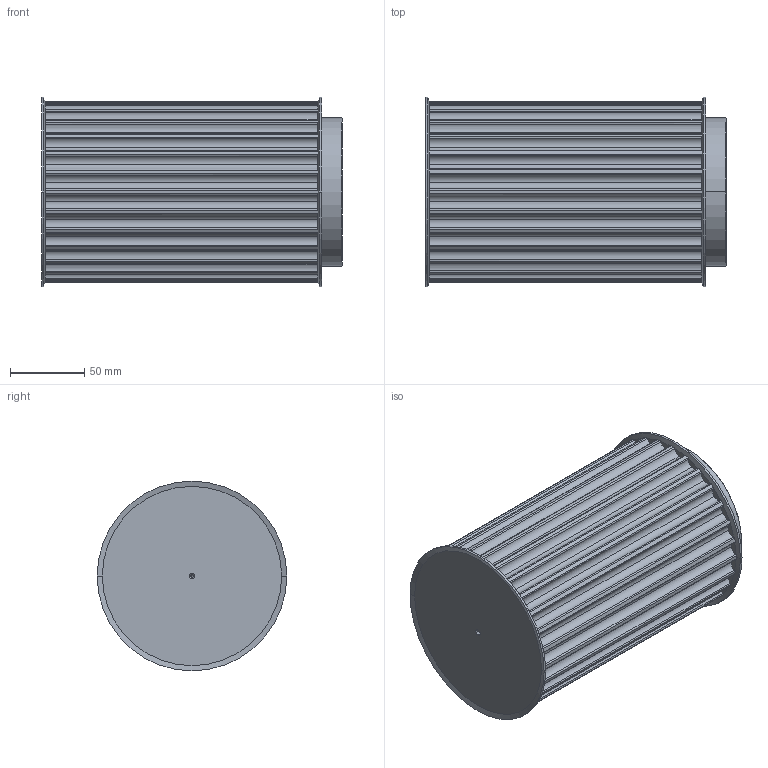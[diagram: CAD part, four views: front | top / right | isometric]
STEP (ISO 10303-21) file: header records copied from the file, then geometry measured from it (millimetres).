
FILE_DESCRIPTION(('STEP AP203'),'1');
FILE_NAME('28_-_14_m_170.stp','2020-01-21T10:43:25',('TraceParts'),('TraceParts S.A.'),'Spatial InterOp 3D',' ',' ');
FILE_SCHEMA(('CONFIG_CONTROL_DESIGN'));
Length unit declared in the file: millimetre
Products named in the file (1): 1
Bounding box: 202.94 x 128 x 128 mm (x, y, z)
Volume: 2137152.6 mm3; surface area: 126944.5 mm2
Topology: 1 solids, 1 shells, 227 faces, 658 edges, 432 vertices
Faces by surface type: cylinder 150, plane 59, cone 18
Entity records: 8250 total; most frequent: CARTESIAN_POINT 2098, DIRECTION 1372, ORIENTED_EDGE 1308, EDGE_CURVE 654, AXIS2_PLACEMENT_3D 602, VERTEX_POINT 432, CIRCLE 374, EDGE_LOOP 230
